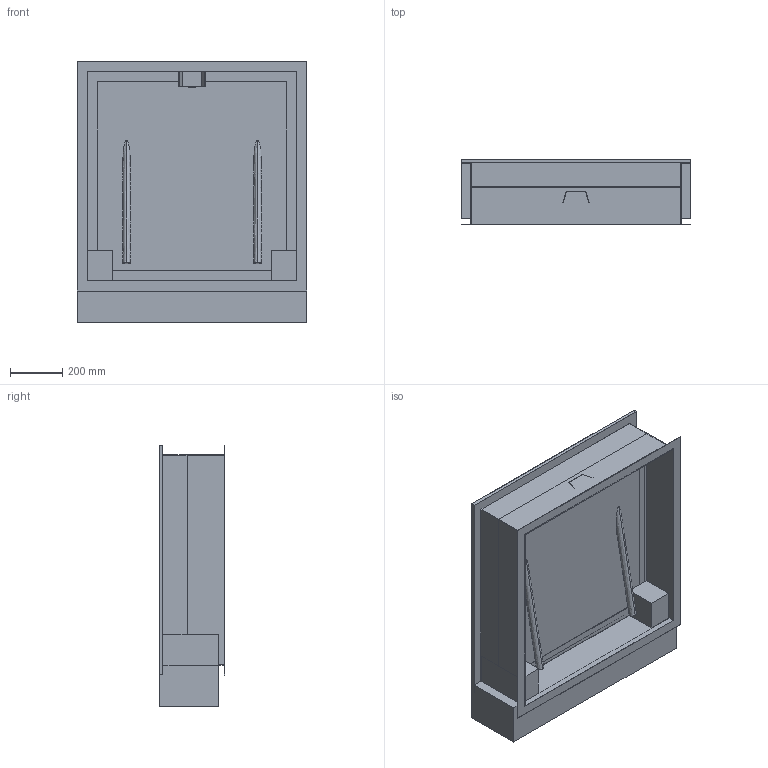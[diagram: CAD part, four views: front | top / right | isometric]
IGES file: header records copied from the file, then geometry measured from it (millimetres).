
Start section:  PTC IGES file: 51537165.igs
Global section: file name: 51537165.igs; native system: Creo Parametric by PTC Inc.; preprocessor: 2019224; author: gm; organization: Unknown; date: 20201012.134520; units: millimetre
Bounding box: 878 x 250 x 1000 mm (x, y, z)
Surface area: 4363749.6 mm2 (no closed solid volume)
Topology: 0 solids, 0 shells, 147 faces, 812 edges, 812 vertices
Faces by surface type: bspline 108, revolution 39
